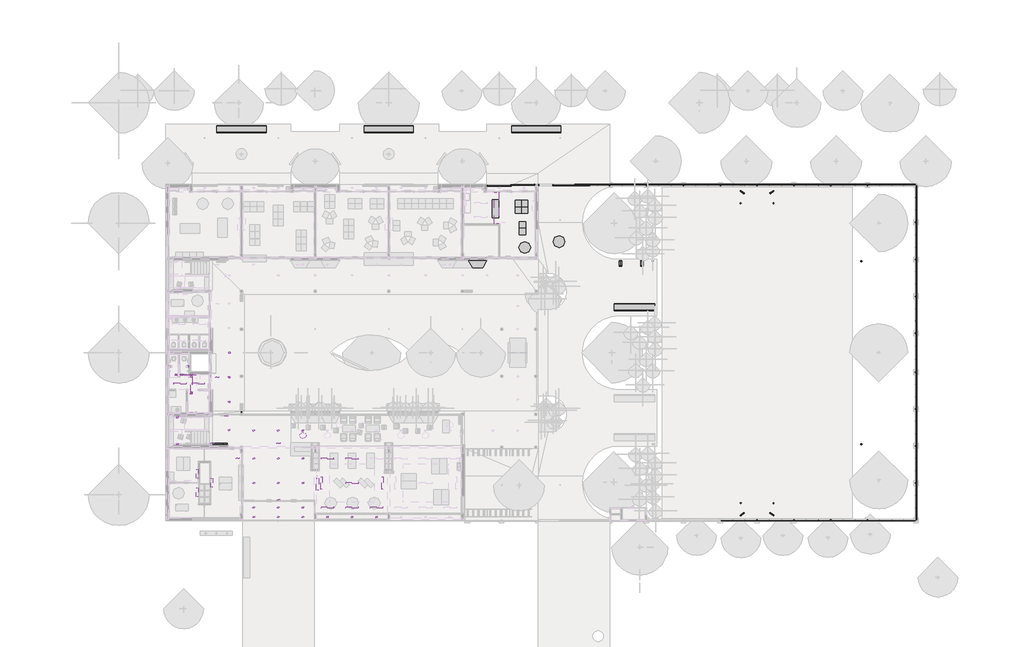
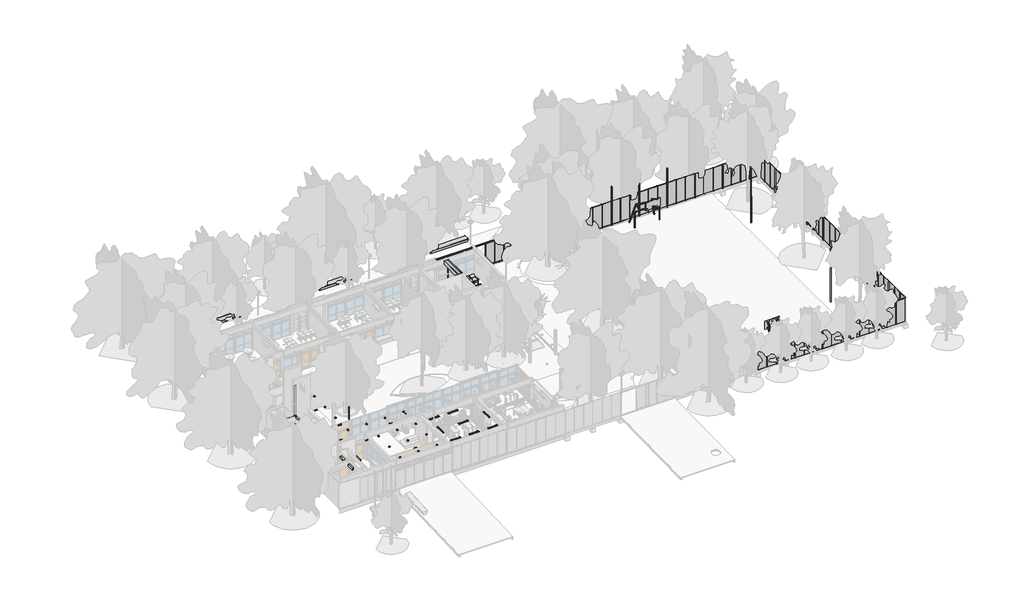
# One storey, part 19 of 22: 45 light fixtures, 38 furniture elements, 11 pipe segments, 9 proxies, 6 pipe fittings.
"""IFC4 building model written with IfcOpenShell, lengths in millimetres."""

from ifc_helpers import new_model, si_unit, point, frame, frame_2d, origin, origin_with_axes, place, context, project, spatial, circle_curve, trimmed, segment, composite_curve, outline, extrude, transform, mapped, element, save
from components import electrical_equipment_c3a30a10, aa_unidad_interior_12_18_24_v2_12000btu_578df6c9, aa_unidad_interior_12_18_24_v2_24000btu_6bd6a99b, pcb1_35x80x15_517f87f7, tpb1_100x80x15_b3fe0ed7, furniture_fd72af2a, furniture_e56d43f1, furniture_4cc7b299, furniture_a39bbeee, furniture_a6d4d556, furniture_abbcea69, furniture_638756c5, furniture_b6be04e7, furniture_4eb7cf04, furniture_6ba65ce6, furniture_6cb22b23, furniture_e62c53e2, furniture_aa3b6743, furniture_18cd3a3b, furniture_74885e08, furniture_0fe16592, furniture_af94d752, furniture_9b45714c, furniture_685e10fb, furniture_f63c7d66, furniture_c8fff0bf, furniture_de40e68f, furniture_26281bd8, furniture_f331ff0f, furniture_52e7fafc, furniture_2_16_mesa_redonda_2_16_mesa_redonda_79845c6b, l150_l150_8baf4198, l151_l151_e0f7dd01, l205_v1_l205_v1_696a9d75, l207_l207_1a914073, l207_l207_df287294, l207_muro_l207_muro_697710b7, l207_muro_l207_muro_8cf962c2, l251_l251_78c3c87a, l508_muro_l508_muro_c32f3ad5, l508_muro_l508_muro_abd03695, m_codo_pvc_serie_40_37877417

model = new_model("IFC4")

# Units and contexts
model_context = context("Model", 3, world=origin())
ifc_project = project(units=[si_unit("LENGTHUNIT", "METRE", prefix="MILLI")], contexts=[model_context])

# Site, building, storey
site = spatial("IfcSite", under=ifc_project)
building = spatial("IfcBuilding", under=site)
storey = spatial("IfcBuildingStorey", under=building, Name="PLanta baja", Elevation=0.0)

# Proxies
placement = place(None, origin())
electrical_equipment_shape = electrical_equipment_c3a30a10(model_context)
element("IfcBuildingElementProxy", 1, Name="Extractor Decor : Extractor Decor", ObjectType="Extractor Decor : Extractor Decor", at=placement, inside=storey, context=model_context, shape_type="MappedRepresentation", body=[
    mapped(electrical_equipment_shape, transform((5501.4228884, 12162.7304035, 2600.0), x_axis=(1.0, 0.0, 0.0), y_axis=(0.0, -1.0, 0.0), z_axis=(0.0, 0.0, -1.0))),
])
element("IfcBuildingElementProxy", 2, Name="Extractor Decor : Extractor Decor", ObjectType="Extractor Decor : Extractor Decor", at=placement, inside=storey, context=model_context, shape_type="MappedRepresentation", body=[
    mapped(electrical_equipment_shape, transform((4096.4228884, 13908.2725089, 2600.0), x_axis=(1.0, 0.0, 0.0), y_axis=(0.0, -1.0, 0.0), z_axis=(0.0, 0.0, -1.0))),
])
element("IfcBuildingElementProxy", 3, Name="Extractor Decor : Extractor Decor", ObjectType="Extractor Decor : Extractor Decor", at=placement, inside=storey, context=model_context, shape_type="MappedRepresentation", body=[
    mapped(electrical_equipment_shape, transform((4596.4228884, 13900.7725089, 2600.0), x_axis=(1.0, 0.0, 0.0), y_axis=(0.0, -1.0, 0.0), z_axis=(0.0, 0.0, -1.0))),
])
aa_unidad_interior_12_18_24_v2_12000btu_shape = aa_unidad_interior_12_18_24_v2_12000btu_578df6c9(model_context)
element("IfcBuildingElementProxy", 4, Name="AA Unidad interior 12-18-24 V2 : 12000BTU", ObjectType="AA Unidad interior 12-18-24 V2 : 12000BTU", at=placement, inside=storey, context=model_context, shape_type="MappedRepresentation", body=[
    mapped(aa_unidad_interior_12_18_24_v2_12000btu_shape, transform((6163.7173693, 4638.9804035, 2800.0), x_axis=(0.0, -1.0, 0.0), y_axis=(0.0, 0.0, 1.0), z_axis=(-1.0, 0.0, 0.0))),
])
element("IfcBuildingElementProxy", 5, Name="AA Unidad interior 12-18-24 V2 : 12000BTU", ObjectType="AA Unidad interior 12-18-24 V2 : 12000BTU", at=placement, inside=storey, context=model_context, shape_type="MappedRepresentation", body=[
    mapped(aa_unidad_interior_12_18_24_v2_12000btu_shape, transform((6163.7173693, 2901.4804035, 2800.0), x_axis=(0.0, -1.0, 0.0), y_axis=(0.0, 0.0, 1.0), z_axis=(-1.0, 0.0, 0.0))),
])
element("IfcBuildingElementProxy", 6, Name="AA Unidad interior 12-18-24 V2 : 12000BTU", ObjectType="AA Unidad interior 12-18-24 V2 : 12000BTU", at=placement, inside=storey, context=model_context, shape_type="MappedRepresentation", body=[
    mapped(aa_unidad_interior_12_18_24_v2_12000btu_shape, transform((7313.7173693, 3770.2304035, 2800.0), x_axis=(0.0, 1.0, 0.0), y_axis=(0.0, 0.0, 1.0), z_axis=(1.0, 0.0, 0.0))),
])
aa_unidad_interior_12_18_24_v2_24000btu_shape = aa_unidad_interior_12_18_24_v2_24000btu_6bd6a99b(model_context)
element("IfcBuildingElementProxy", 7, Name="AA Unidad interior 12-18-24 V2 : 24000BTU", ObjectType="AA Unidad interior 12-18-24 V2 : 24000BTU", at=placement, inside=storey, context=model_context, shape_type="MappedRepresentation", body=[
    mapped(aa_unidad_interior_12_18_24_v2_24000btu_shape, transform((17188.7173694, 3648.5637368, 2790.2432716), x_axis=(0.0, 1.0, 0.0), y_axis=(0.0, 0.0, 1.0), z_axis=(1.0, 0.0, 0.0))),
])
pcb1_35x80x15_shape = pcb1_35x80x15_517f87f7(model_context)
element("IfcBuildingElementProxy", 8, Name="TABLERO ELECTRICO DE SUPERFICIE : PCB1 35x80x15", ObjectType="TABLERO ELECTRICO DE SUPERFICIE : PCB1 35x80x15", at=placement, inside=storey, context=model_context, shape_type="MappedRepresentation", body=[
    mapped(pcb1_35x80x15_shape, transform((8677.7173694, 7330.2304035, 1800.0), x_axis=(-1.0, 0.0, 0.0), y_axis=(0.0, 0.0, 1.0), z_axis=(0.0, 1.0, 0.0))),
])
tpb1_100x80x15_shape = tpb1_100x80x15_b3fe0ed7(model_context)
element("IfcBuildingElementProxy", 9, Name="TABLERO ELECTRICO DE SUPERFICIE : TPB1 100x80x15", ObjectType="TABLERO ELECTRICO DE SUPERFICIE : TPB1 100x80x15", at=placement, inside=storey, context=model_context, shape_type="MappedRepresentation", body=[
    mapped(tpb1_100x80x15_shape, transform((8002.7173694, 7330.2304035, 1800.0), x_axis=(-1.0, 0.0, 0.0), y_axis=(0.0, 0.0, 1.0), z_axis=(0.0, 1.0, 0.0))),
])

# Furniture
furniture_shape = furniture_fd72af2a(model_context)
element("IfcFurniture", 10, ObjectType="H101 ARCO Y TABLERO : H101 ARCO Y TABLERO", at=placement, inside=storey, context=model_context, shape_type="MappedRepresentation", body=[
    mapped(furniture_shape, transform((58488.7173693, 29973.3757217, 0.0), x_axis=(1.0, 0.0, 0.0), y_axis=(0.0, 1.0, 0.0), z_axis=(0.0, 0.0, 1.0))),
])
element("IfcFurniture", 11, ObjectType="H101 ARCO Y TABLERO : H101 ARCO Y TABLERO", at=placement, inside=storey, context=model_context, shape_type="MappedRepresentation", body=[
    mapped(furniture_shape, transform((58488.7173693, 1881.5821974, -50.0), x_axis=(-1.0, 0.0, 0.0), y_axis=(0.0, -1.0, 0.0), z_axis=(0.0, 0.0, 1.0))),
])
furniture_2_shape = furniture_e56d43f1(model_context)
element("IfcFurniture", 12, ObjectType="2.5 Mesa cuadrada 60x60 : 2.5 Mesa cuadrada 60x60", at=placement, inside=storey, context=model_context, shape_type="MappedRepresentation", body=[
    mapped(furniture_2_shape, transform((36728.7173694, 29949.199841, 0.0), x_axis=(1.0, 0.0, 0.0), y_axis=(0.0, 1.0, 0.0), z_axis=(0.0, 0.0, 1.0))),
])
element("IfcFurniture", 13, ObjectType="2.5 Mesa cuadrada 60x60 : 2.5 Mesa cuadrada 60x60", at=placement, inside=storey, context=model_context, shape_type="MappedRepresentation", body=[
    mapped(furniture_2_shape, transform((36128.7173455, 29949.199841, 0.0), x_axis=(1.0, 0.0, 0.0), y_axis=(0.0, 1.0, 0.0), z_axis=(0.0, 0.0, 1.0))),
])
element("IfcFurniture", 14, ObjectType="2.5 Mesa cuadrada 60x60 : 2.5 Mesa cuadrada 60x60", at=placement, inside=storey, context=model_context, shape_type="MappedRepresentation", body=[
    mapped(furniture_2_shape, transform((36497.2889645, 27340.9251233, 0.0), x_axis=(0.0, -1.0, 0.0), y_axis=(1.0, 0.0, 0.0), z_axis=(0.0, 0.0, 1.0))),
])
element("IfcFurniture", 15, ObjectType="2.5 Mesa cuadrada 60x60 : 2.5 Mesa cuadrada 60x60", at=placement, inside=storey, context=model_context, shape_type="MappedRepresentation", body=[
    mapped(furniture_2_shape, transform((36497.2889645, 27940.9251472, 0.0), x_axis=(0.0, -1.0, 0.0), y_axis=(1.0, 0.0, 0.0), z_axis=(0.0, 0.0, 1.0))),
])
element("IfcFurniture", 16, ObjectType="2.5 Mesa cuadrada 60x60 : 2.5 Mesa cuadrada 60x60", at=placement, inside=storey, context=model_context, shape_type="MappedRepresentation", body=[
    mapped(furniture_2_shape, transform((36728.7173694, 29349.1998171, 0.0), x_axis=(1.0, 0.0, 0.0), y_axis=(0.0, 1.0, 0.0), z_axis=(0.0, 0.0, 1.0))),
])
element("IfcFurniture", 17, ObjectType="2.5 Mesa cuadrada 60x60 : 2.5 Mesa cuadrada 60x60", at=placement, inside=storey, context=model_context, shape_type="MappedRepresentation", body=[
    mapped(furniture_2_shape, transform((36128.7173455, 29349.1998171, 0.0), x_axis=(1.0, 0.0, 0.0), y_axis=(0.0, 1.0, 0.0), z_axis=(0.0, 0.0, 1.0))),
])
furniture_3_shape = furniture_4cc7b299(model_context)
element("IfcFurniture", 18, ObjectType="H104 Reja 4 módulos : H104 Reja 4 módulos 450x310", at=placement, inside=storey, context=model_context, shape_type="MappedRepresentation", body=[
    mapped(furniture_3_shape, transform((71044.0170429, 810.2304035, -50.0), x_axis=(1.0, 0.0, 0.0), y_axis=(0.0, 1.0, 0.0), z_axis=(0.0, 0.0, 1.0))),
])
furniture_4_shape = furniture_a39bbeee(model_context)
element("IfcFurniture", 19, ObjectType="H104 Reja 4 módulos : H104 Reja 4 módulos 450x310", at=placement, inside=storey, context=model_context, shape_type="MappedRepresentation", body=[
    mapped(furniture_4_shape, transform((71044.0170429, 31137.8764884, -50.0), x_axis=(1.0, 0.0, 0.0), y_axis=(0.0, 1.0, 0.0), z_axis=(0.0, 0.0, 1.0))),
])
furniture_5_shape = furniture_a6d4d556(model_context)
element("IfcFurniture", 20, ObjectType="H103 Reja 3 módulos : H103.2 Reja 3 módulos 366x315", at=placement, inside=storey, context=model_context, shape_type="MappedRepresentation", body=[
    mapped(furniture_5_shape, transform((72838.7173693, 16393.530077, -50.0), x_axis=(0.0, 1.0, 0.0), y_axis=(-1.0, 0.0, 0.0), z_axis=(0.0, 0.0, 1.0))),
])
furniture_6_shape = furniture_abbcea69(model_context)
element("IfcFurniture", 21, ObjectType="P04 Mostrador cantina : P04 Mostrador cantina", at=placement, inside=storey, context=model_context, shape_type="MappedRepresentation", body=[
    mapped(furniture_6_shape, transform((33688.7173693, 30175.530077, 900.0), x_axis=(0.0, 1.0, 0.0), y_axis=(-1.0, 0.0, 0.0), z_axis=(0.0, 0.0, 1.0))),
])
furniture_7_shape = furniture_638756c5(model_context)
element("IfcFurniture", 22, ObjectType="Banco de hormigón : Banco de hormigón 4.6m", at=placement, inside=storey, context=model_context, shape_type="MappedRepresentation", body=[
    mapped(furniture_7_shape, transform((37749.0170429, 37244.2072726, -50.0), x_axis=(1.0, 0.0, 0.0), y_axis=(0.0, 1.0, 0.0), z_axis=(0.0, 0.0, 1.0))),
])
element("IfcFurniture", 23, ObjectType="Banco de hormigón : Banco de hormigón 4.6m", at=placement, inside=storey, context=model_context, shape_type="MappedRepresentation", body=[
    mapped(furniture_7_shape, transform((23949.0170429, 37244.2072726, -50.0), x_axis=(1.0, 0.0, 0.0), y_axis=(0.0, 1.0, 0.0), z_axis=(0.0, 0.0, 1.0))),
])
element("IfcFurniture", 24, ObjectType="Banco de hormigón : Banco de hormigón 4.6m", at=placement, inside=storey, context=model_context, shape_type="MappedRepresentation", body=[
    mapped(furniture_7_shape, transform((10149.0170429, 37244.2072726, -50.0), x_axis=(1.0, 0.0, 0.0), y_axis=(0.0, 1.0, 0.0), z_axis=(0.0, 0.0, 1.0))),
])
furniture_8_shape = furniture_b6be04e7(model_context)
element("IfcFurniture", 25, ObjectType="C06 Asiento Trapecio : C06 Asiento Trapecio 180x40", at=placement, inside=storey, context=model_context, shape_type="MappedRepresentation", body=[
    mapped(furniture_8_shape, transform((32288.7173693, 24609.5116208, 0.0), x_axis=(1.0, 0.0, 0.0), y_axis=(0.0, 1.0, 0.0), z_axis=(0.0, 0.0, 1.0))),
])
furniture_9_shape = furniture_4eb7cf04(model_context)
element("IfcFurniture", 26, ObjectType="Cenefa cortina de enrollar : Cenefa cortina de enrollar", at=placement, inside=storey, context=model_context, shape_type="MappedRepresentation", body=[
    mapped(furniture_9_shape, transform((34127.4673693, 28040.2304035, 3100.0), x_axis=(-1.0, 0.0, 0.0), y_axis=(0.0, 1.0, 0.0), z_axis=(0.0, 0.0, -1.0))),
])
furniture_10_shape = furniture_6ba65ce6(model_context)
element("IfcFurniture", 27, ObjectType="Cortina de enrollar : Cortina de enrollar", at=placement, inside=storey, context=model_context, shape_type="MappedRepresentation", body=[
    mapped(furniture_10_shape, transform((33736.2173693, 29460.530077, -20.0), x_axis=(0.0, 1.0, 0.0), y_axis=(-1.0, 0.0, 0.0), z_axis=(0.0, 0.0, 1.0))),
])
furniture_11_shape = furniture_6cb22b23(model_context)
element("IfcFurniture", 28, ObjectType="Columnas : Columnas", at=placement, inside=storey, context=model_context, shape_type="MappedRepresentation", body=[
    mapped(furniture_11_shape, transform((48672.5170429, 24828.9908949, -50.0), x_axis=(1.0, 0.0, 0.0), y_axis=(0.0, 1.0, 0.0), z_axis=(0.0, 0.0, 1.0))),
])
element("IfcFurniture", 29, ObjectType="Columnas : Columnas", at=placement, inside=storey, context=model_context, shape_type="MappedRepresentation", body=[
    mapped(furniture_11_shape, transform((68312.5159459, 7119.1159969, 0.0), x_axis=(-1.0, 0.0, 0.0), y_axis=(0.0, -1.0, 0.0), z_axis=(0.0, 0.0, 1.0))),
])
furniture_12_shape = furniture_e62c53e2(model_context)
element("IfcFurniture", 30, ObjectType="Columnas : Columnas", at=placement, inside=storey, context=model_context, shape_type="MappedRepresentation", body=[
    mapped(furniture_12_shape, transform((68312.5159459, 24828.9908949, 0.0), x_axis=(-1.0, 0.0, 0.0), y_axis=(0.0, -1.0, 0.0), z_axis=(0.0, 0.0, 1.0))),
])
furniture_13_shape = furniture_aa3b6743(model_context)
element("IfcFurniture", 31, ObjectType="Bebedero : Bebedero", at=placement, inside=storey, context=model_context, shape_type="MappedRepresentation", body=[
    mapped(furniture_13_shape, transform((45693.7173693, 24288.924845, -50.0), x_axis=(1.0, 0.0, 0.0), y_axis=(0.0, 1.0, 0.0), z_axis=(0.0, 0.0, 1.0))),
])
element("IfcFurniture", 32, ObjectType="Bebedero : Bebedero", at=placement, inside=storey, context=model_context, shape_type="MappedRepresentation", body=[
    mapped(furniture_13_shape, transform((47713.7173693, 24288.924845, -50.0), x_axis=(1.0, 0.0, 0.0), y_axis=(0.0, 1.0, 0.0), z_axis=(0.0, 0.0, 1.0))),
])
furniture_14_shape = furniture_18cd3a3b(model_context)
element("IfcFurniture", 33, ObjectType="Banco de hormigón : Banco de hormigón 3.8m", at=placement, inside=storey, context=model_context, shape_type="MappedRepresentation", body=[
    mapped(furniture_14_shape, transform((46965.3596252, 20570.2304035, -50.0), x_axis=(1.0, 0.0, 0.0), y_axis=(0.0, 1.0, 0.0), z_axis=(0.0, 0.0, 1.0))),
])
furniture_15_shape = furniture_74885e08(model_context)
element("IfcFurniture", 34, ObjectType="H105 Reja 6 módulos : H105.1 Reja 6 módulos 690x310", at=placement, inside=storey, context=model_context, shape_type="MappedRepresentation", body=[
    mapped(furniture_15_shape, transform((72838.7173693, 9497.5300771, -50.0), x_axis=(0.0, 1.0, 0.0), y_axis=(-1.0, 0.0, 0.0), z_axis=(0.0, 0.0, 1.0))),
])
furniture_16_shape = furniture_0fe16592(model_context)
element("IfcFurniture", 35, ObjectType="H105 Reja 6 módulos : H105.1 Reja 6 módulos 690x310", at=placement, inside=storey, context=model_context, shape_type="MappedRepresentation", body=[
    mapped(furniture_16_shape, transform((72838.7173693, 22442.9307299, -50.0), x_axis=(0.0, -1.0, 0.0), y_axis=(1.0, 0.0, 0.0), z_axis=(0.0, 0.0, 1.0))),
])
furniture_17_shape = furniture_af94d752(model_context)
element("IfcFurniture", 36, ObjectType="H105 Reja 6 módulos : H105.2 Reja 6 módulos 690x315 CANCHA", at=placement, inside=storey, context=model_context, shape_type="MappedRepresentation", body=[
    mapped(furniture_17_shape, transform((57294.0170429, 810.2304035, -50.0), x_axis=(1.0, 0.0, 0.0), y_axis=(0.0, 1.0, 0.0), z_axis=(0.0, 0.0, 1.0))),
])
furniture_18_shape = furniture_9b45714c(model_context)
element("IfcFurniture", 37, ObjectType="H105 Reja 6 módulos : H105.2 Reja 6 módulos 690x315 CANCHA", at=placement, inside=storey, context=model_context, shape_type="MappedRepresentation", body=[
    mapped(furniture_18_shape, transform((64194.0170429, 810.2304035, -50.0), x_axis=(1.0, 0.0, 0.0), y_axis=(0.0, 1.0, 0.0), z_axis=(0.0, 0.0, 1.0))),
])
element("IfcFurniture", 38, ObjectType="H105 Reja 6 módulos : H105.2 Reja 6 módulos 690x315 CANCHA", at=placement, inside=storey, context=model_context, shape_type="MappedRepresentation", body=[
    mapped(furniture_18_shape, transform((52783.4176958, 31137.8764884, -50.0), x_axis=(-1.0, 0.0, 0.0), y_axis=(0.0, -1.0, 0.0), z_axis=(0.0, 0.0, 1.0))),
])
furniture_19_shape = furniture_685e10fb(model_context)
element("IfcFurniture", 39, ObjectType="H105 Reja 6 módulos : H105.2 Reja 6 módulos 690x315 CANCHA", at=placement, inside=storey, context=model_context, shape_type="MappedRepresentation", body=[
    mapped(furniture_19_shape, transform((57294.0170429, 31137.8764884, -50.0), x_axis=(1.0, 0.0, 0.0), y_axis=(0.0, 1.0, 0.0), z_axis=(0.0, 0.0, 1.0))),
])
furniture_20_shape = furniture_f63c7d66(model_context)
element("IfcFurniture", 40, ObjectType="H105 Reja 6 módulos : H105.1 Reja 6 módulos 690x310", at=placement, inside=storey, context=model_context, shape_type="MappedRepresentation", body=[
    mapped(furniture_20_shape, transform((64194.0170429, 31137.8764884, -50.0), x_axis=(1.0, 0.0, 0.0), y_axis=(0.0, 1.0, 0.0), z_axis=(0.0, 0.0, 1.0))),
])
furniture_21_shape = furniture_c8fff0bf(model_context)
element("IfcFurniture", 41, ObjectType="H103 Reja 3 módulos : H103.1 Reja 3 módulos 345x315", at=placement, inside=storey, context=model_context, shape_type="MappedRepresentation", body=[
    mapped(furniture_21_shape, transform((45883.4176958, 31137.8764884, -50.0), x_axis=(-1.0, 0.0, 0.0), y_axis=(0.0, -1.0, 0.0), z_axis=(0.0, 0.0, 1.0))),
])
furniture_22_shape = furniture_de40e68f(model_context)
element("IfcFurniture", 42, ObjectType="H105 Reja 6 módulos : H105.3 Reja 6 módulos 697x315", at=placement, inside=storey, context=model_context, shape_type="MappedRepresentation", body=[
    mapped(furniture_22_shape, transform((72838.7173693, 2548.8634104, -50.0), x_axis=(0.0, 1.0, 0.0), y_axis=(-1.0, 0.0, 0.0), z_axis=(0.0, 0.0, 1.0))),
])
furniture_23_shape = furniture_26281bd8(model_context)
element("IfcFurniture", 43, ObjectType="H105 Reja 6 módulos : H105.3 Reja 6 módulos 697x315", at=placement, inside=storey, context=model_context, shape_type="MappedRepresentation", body=[
    mapped(furniture_23_shape, transform((72838.7173693, 29399.2434815, -50.0), x_axis=(0.0, -1.0, 0.0), y_axis=(1.0, 0.0, 0.0), z_axis=(0.0, 0.0, 1.0))),
])
furniture_24_shape = furniture_f331ff0f(model_context)
element("IfcFurniture", 44, ObjectType="H102 Portón corredizo vehicular : H102 Portón corredizo vehicular", at=placement, inside=storey, context=model_context, shape_type="MappedRepresentation", body=[
    mapped(furniture_24_shape, transform((41343.7173693, 31617.8764884, 0.0), x_axis=(1.0, 0.0, 0.0), y_axis=(0.0, 1.0, 0.0), z_axis=(0.0, 0.0, 1.0))),
])
furniture_25_shape = furniture_52e7fafc(model_context)
element("IfcFurniture", 45, ObjectType="H12 Protección 4 módulos Corredizo 2 hojas : H12 Protección 4 módulos 2 hojas corredizas 450x310", at=placement, inside=storey, context=model_context, shape_type="MappedRepresentation", body=[
    mapped(furniture_25_shape, transform((35438.7173693, 31660.2304035, -50.0), x_axis=(1.0, 0.0, 0.0), y_axis=(0.0, 1.0, 0.0), z_axis=(0.0, 0.0, 1.0))),
])
furniture_2_16_mesa_redonda_2_16_mesa_redonda_shape = furniture_2_16_mesa_redonda_2_16_mesa_redonda_79845c6b(model_context)
element("IfcFurniture", 46, ObjectType="2.16 Mesa redonda : 2.16 Mesa redonda", at=placement, inside=storey, context=model_context, shape_type="MappedRepresentation", body=[
    mapped(furniture_2_16_mesa_redonda_2_16_mesa_redonda_shape, transform((39940.165201, 26375.3422951, 0.0), x_axis=(0.7071067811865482, -0.7071067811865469, 0.0), y_axis=(0.7071067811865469, 0.7071067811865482, 0.0), z_axis=(0.0, 0.0, 1.0))),
])
element("IfcFurniture", 47, ObjectType="2.16 Mesa redonda : 2.16 Mesa redonda", at=placement, inside=storey, context=model_context, shape_type="MappedRepresentation", body=[
    mapped(furniture_2_16_mesa_redonda_2_16_mesa_redonda_shape, transform((36728.7173694, 25835.9933387, 0.0), x_axis=(1.0, 0.0, 0.0), y_axis=(0.0, 1.0, 0.0), z_axis=(0.0, 0.0, 1.0))),
])

# Light fixtures
l150_l150_shape = l150_l150_8baf4198(model_context)
element("IfcLightFixture", 48, ObjectType="L150 : L150", at=placement, inside=storey, context=model_context, shape_type="MappedRepresentation", body=[
    mapped(l150_l150_shape, transform((13638.7173694, 2192.2304035, 3100.0), x_axis=(1.0, 0.0, 0.0), y_axis=(0.0, -1.0, 0.0), z_axis=(0.0, 0.0, -1.0))),
])
element("IfcLightFixture", 49, ObjectType="L150 : L150", at=placement, inside=storey, context=model_context, shape_type="MappedRepresentation", body=[
    mapped(l150_l150_shape, transform((8788.7173693, 10050.2304035, 3100.0), x_axis=(1.0, 0.0, 0.0), y_axis=(0.0, -1.0, 0.0), z_axis=(0.0, 0.0, -1.0))),
])
l151_l151_shape = l151_l151_e0f7dd01(model_context)
element("IfcLightFixture", 50, ObjectType="L151 : L151", at=placement, inside=storey, context=model_context, shape_type="MappedRepresentation", body=[
    mapped(l151_l151_shape, transform((7461.2173694, 7487.7304035, 3100.0), x_axis=(0.0, -1.0, 0.0), y_axis=(-1.0, 0.0, 0.0), z_axis=(0.0, 0.0, -1.0))),
])
element("IfcLightFixture", 51, ObjectType="L151 : L151", at=placement, inside=storey, context=model_context, shape_type="MappedRepresentation", body=[
    mapped(l151_l151_shape, transform((13651.2173694, 7487.7304035, 3100.0), x_axis=(0.0, -1.0, 0.0), y_axis=(-1.0, 0.0, 0.0), z_axis=(0.0, 0.0, -1.0))),
])
element("IfcLightFixture", 52, ObjectType="L151 : L151", at=placement, inside=storey, context=model_context, shape_type="MappedRepresentation", body=[
    mapped(l151_l151_shape, transform((9839.3519916, 6068.5637368, 3100.0), x_axis=(0.0, -1.0, 0.0), y_axis=(-1.0, 0.0, 0.0), z_axis=(0.0, 0.0, -1.0))),
])
element("IfcLightFixture", 53, ObjectType="L151 : L151", at=placement, inside=storey, context=model_context, shape_type="MappedRepresentation", body=[
    mapped(l151_l151_shape, transform((5828.4489127, 13885.2304035, 2600.0), x_axis=(0.0, -1.0, 0.0), y_axis=(-1.0, 0.0, 0.0), z_axis=(0.0, 0.0, -1.0))),
])
element("IfcLightFixture", 54, ObjectType="L151 : L151", at=placement, inside=storey, context=model_context, shape_type="MappedRepresentation", body=[
    mapped(l151_l151_shape, transform((7913.7173694, 13670.2304035, 3100.0), x_axis=(0.0, -1.0, 0.0), y_axis=(-1.0, 0.0, 0.0), z_axis=(0.0, 0.0, -1.0))),
])
l205_v1_l205_v1_shape = l205_v1_l205_v1_696a9d75(model_context)
element("IfcLightFixture", 55, ObjectType="L205 v1 : L205 v1", at=placement, inside=storey, context=model_context, shape_type="MappedRepresentation", body=[
    mapped(l205_v1_l205_v1_shape, transform((15938.7173693, 8220.2304035, 0.0), x_axis=(1.0, 0.0, 0.0), y_axis=(0.0, 1.0, 0.0), z_axis=(0.0, 0.0, 1.0))),
])
l207_l207_shape = l207_l207_1a914073(model_context)
element("IfcLightFixture", 56, ObjectType="L207 : L207", at=placement, inside=storey, context=model_context, shape_type="MappedRepresentation", body=[
    mapped(l207_l207_shape, transform((9038.7173693, 8720.2304035, 100.0), x_axis=(1.0, 0.0, 0.0), y_axis=(0.0, 1.0, 0.0), z_axis=(0.0, 0.0, 1.0))),
])
element("IfcLightFixture", 57, ObjectType="L207 : L207", at=placement, inside=storey, context=model_context, shape_type="MappedRepresentation", body=[
    mapped(l207_l207_shape, transform((9038.7173693, 11370.2304035, 100.0), x_axis=(1.0, 0.0, 0.0), y_axis=(0.0, 1.0, 0.0), z_axis=(0.0, 0.0, 1.0))),
])
element("IfcLightFixture", 58, ObjectType="L207 : L207", at=placement, inside=storey, context=model_context, shape_type="MappedRepresentation", body=[
    mapped(l207_l207_shape, transform((9038.7173693, 13670.2304035, 100.0), x_axis=(1.0, 0.0, 0.0), y_axis=(0.0, 1.0, 0.0), z_axis=(0.0, 0.0, 1.0))),
])
element("IfcLightFixture", 59, ObjectType="L207 : L207", at=placement, inside=storey, context=model_context, shape_type="MappedRepresentation", body=[
    mapped(l207_l207_shape, transform((9038.7173693, 15970.2304035, 99.3235255), x_axis=(0.9999579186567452, 0.0, -0.00917392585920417), y_axis=(0.0, 1.0, 0.0), z_axis=(0.00917392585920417, 0.0, 0.9999579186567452))),
])
l207_l207_2_shape = l207_l207_df287294(model_context)
element("IfcLightFixture", 60, ObjectType="L207 : L207", at=placement, inside=storey, context=model_context, shape_type="MappedRepresentation", body=[
    mapped(l207_l207_2_shape, transform((15938.7173693, 8670.2304035, 100.0), x_axis=(1.0, 0.0, 0.0), y_axis=(0.0, 1.0, 0.0), z_axis=(0.0, 0.0, 1.0))),
])
element("IfcLightFixture", 61, ObjectType="L207 : L207", at=placement, inside=storey, context=model_context, shape_type="MappedRepresentation", body=[
    mapped(l207_l207_2_shape, transform((13638.7173693, 8670.2304035, 100.0), x_axis=(1.0, 0.0, 0.0), y_axis=(0.0, 1.0, 0.0), z_axis=(0.0, 0.0, 1.0))),
])
element("IfcLightFixture", 62, ObjectType="L207 : L207", at=placement, inside=storey, context=model_context, shape_type="MappedRepresentation", body=[
    mapped(l207_l207_2_shape, transform((11338.7173693, 8670.2304035, 100.0), x_axis=(1.0, 0.0, 0.0), y_axis=(0.0, 1.0, 0.0), z_axis=(0.0, 0.0, 1.0))),
])
element("IfcLightFixture", 63, ObjectType="L207 : L207", at=placement, inside=storey, context=model_context, shape_type="MappedRepresentation", body=[
    mapped(l207_l207_2_shape, transform((15938.7173693, 1468.5637368, 100.0), x_axis=(1.0, 0.0, 0.0), y_axis=(0.0, 1.0, 0.0), z_axis=(0.0, 0.0, 1.0))),
])
element("IfcLightFixture", 64, ObjectType="L207 : L207", at=placement, inside=storey, context=model_context, shape_type="MappedRepresentation", body=[
    mapped(l207_l207_2_shape, transform((13638.7173693, 1468.5637368, 100.0), x_axis=(1.0, 0.0, 0.0), y_axis=(0.0, 1.0, 0.0), z_axis=(0.0, 0.0, 1.0))),
])
element("IfcLightFixture", 65, ObjectType="L207 : L207", at=placement, inside=storey, context=model_context, shape_type="MappedRepresentation", body=[
    mapped(l207_l207_2_shape, transform((11338.7173693, 1468.5637368, 100.0), x_axis=(1.0, 0.0, 0.0), y_axis=(0.0, 1.0, 0.0), z_axis=(0.0, 0.0, 1.0))),
])
element("IfcLightFixture", 66, ObjectType="L207 : L207", at=placement, inside=storey, context=model_context, shape_type="MappedRepresentation", body=[
    mapped(l207_l207_2_shape, transform((15938.7173693, 3768.5637368, 100.0), x_axis=(1.0, 0.0, 0.0), y_axis=(0.0, 1.0, 0.0), z_axis=(0.0, 0.0, 1.0))),
])
element("IfcLightFixture", 67, ObjectType="L207 : L207", at=placement, inside=storey, context=model_context, shape_type="MappedRepresentation", body=[
    mapped(l207_l207_2_shape, transform((13638.7173693, 3768.5637368, 100.0), x_axis=(1.0, 0.0, 0.0), y_axis=(0.0, 1.0, 0.0), z_axis=(0.0, 0.0, 1.0))),
])
element("IfcLightFixture", 68, ObjectType="L207 : L207", at=placement, inside=storey, context=model_context, shape_type="MappedRepresentation", body=[
    mapped(l207_l207_2_shape, transform((11338.7173693, 3768.5637368, 100.0), x_axis=(1.0, 0.0, 0.0), y_axis=(0.0, 1.0, 0.0), z_axis=(0.0, 0.0, 1.0))),
])
element("IfcLightFixture", 69, ObjectType="L207 : L207", at=placement, inside=storey, context=model_context, shape_type="MappedRepresentation", body=[
    mapped(l207_l207_2_shape, transform((15938.7173693, 6068.5637368, 100.0), x_axis=(1.0, 0.0, 0.0), y_axis=(0.0, 1.0, 0.0), z_axis=(0.0, 0.0, 1.0))),
])
element("IfcLightFixture", 70, ObjectType="L207 : L207", at=placement, inside=storey, context=model_context, shape_type="MappedRepresentation", body=[
    mapped(l207_l207_2_shape, transform((13638.7173693, 6068.5637368, 100.0), x_axis=(1.0, 0.0, 0.0), y_axis=(0.0, 1.0, 0.0), z_axis=(0.0, 0.0, 1.0))),
])
element("IfcLightFixture", 71, ObjectType="L207 : L207", at=placement, inside=storey, context=model_context, shape_type="MappedRepresentation", body=[
    mapped(l207_l207_2_shape, transform((11338.7173693, 6068.5637368, 100.0), x_axis=(1.0, 0.0, 0.0), y_axis=(0.0, 1.0, 0.0), z_axis=(0.0, 0.0, 1.0))),
])
element("IfcLightFixture", 72, ObjectType="L207 : L207", at=placement, inside=storey, context=model_context, shape_type="MappedRepresentation", body=[
    mapped(l207_l207_2_shape, transform((11338.7173693, 582.7304035, 100.0), x_axis=(1.0, 0.0, 0.0), y_axis=(0.0, 1.0, 0.0), z_axis=(0.0, 0.0, 1.0))),
])
element("IfcLightFixture", 73, ObjectType="L207 : L207", at=placement, inside=storey, context=model_context, shape_type="MappedRepresentation", body=[
    mapped(l207_l207_2_shape, transform((13627.9464991, 582.7304035, 100.0), x_axis=(1.0, 0.0, 0.0), y_axis=(0.0, 1.0, 0.0), z_axis=(0.0, 0.0, 1.0))),
])
element("IfcLightFixture", 74, ObjectType="L207 : L207", at=placement, inside=storey, context=model_context, shape_type="MappedRepresentation", body=[
    mapped(l207_l207_2_shape, transform((15927.9464991, 582.7304035, 100.0), x_axis=(1.0, 0.0, 0.0), y_axis=(0.0, 1.0, 0.0), z_axis=(0.0, 0.0, 1.0))),
])
element("IfcLightFixture", 75, ObjectType="L207 : L207", at=placement, inside=storey, context=model_context, shape_type="MappedRepresentation", body=[
    mapped(l207_l207_2_shape, transform((18238.7173694, 582.7304035, 100.0), x_axis=(1.0, 0.0, 0.0), y_axis=(0.0, 1.0, 0.0), z_axis=(0.0, 0.0, 1.0))),
])
element("IfcLightFixture", 76, ObjectType="L207 : L207", at=placement, inside=storey, context=model_context, shape_type="MappedRepresentation", body=[
    mapped(l207_l207_2_shape, transform((20538.7173694, 582.7304035, 100.0), x_axis=(1.0, 0.0, 0.0), y_axis=(0.0, 1.0, 0.0), z_axis=(0.0, 0.0, 1.0))),
])
element("IfcLightFixture", 77, ObjectType="L207 : L207", at=placement, inside=storey, context=model_context, shape_type="MappedRepresentation", body=[
    mapped(l207_l207_2_shape, transform((22838.7173694, 582.7304035, 100.0), x_axis=(1.0, 0.0, 0.0), y_axis=(0.0, 1.0, 0.0), z_axis=(0.0, 0.0, 1.0))),
])
l207_muro_l207_muro_shape = l207_muro_l207_muro_697710b7(model_context)
element("IfcLightFixture", 78, ObjectType="L207 Muro : L207 Muro", at=placement, inside=storey, context=model_context, shape_type="MappedRepresentation", body=[
    mapped(l207_muro_l207_muro_shape, transform((3243.7173694, 14833.9804035, 330.0), x_axis=(0.0, -1.0, 0.0), y_axis=(1.0, 0.0, 0.0), z_axis=(0.0, 0.0, 1.0))),
])
element("IfcLightFixture", 79, ObjectType="L207 Muro : L207 Muro", at=placement, inside=storey, context=model_context, shape_type="MappedRepresentation", body=[
    mapped(l207_muro_l207_muro_shape, transform((5376.7320753, 10175.2304035, 330.0), x_axis=(1.0, 0.0, 0.0), y_axis=(0.0, 1.0, 0.0), z_axis=(0.0, 0.0, 1.0))),
])
l207_muro_l207_muro_2_shape = l207_muro_l207_muro_8cf962c2(model_context)
element("IfcLightFixture", 80, ObjectType="L207 Muro : L207 Muro", at=placement, inside=storey, context=model_context, shape_type="MappedRepresentation", body=[
    mapped(l207_muro_l207_muro_2_shape, transform((5308.4489127, 14583.9804035, 330.0), x_axis=(0.0, 1.0, 0.0), y_axis=(-1.0, 0.0, 0.0), z_axis=(0.0, 0.0, 1.0))),
])
l251_l251_shape = l251_l251_78c3c87a(model_context)
element("IfcLightFixture", 81, ObjectType="L251 : L251", at=placement, inside=storey, context=model_context, shape_type="MappedRepresentation", body=[
    mapped(l251_l251_shape, transform((4447.4306995, 13095.2304035, 1200.0), x_axis=(1.0, 0.0, 0.0), y_axis=(0.0, 1.0, 0.0), z_axis=(0.0, 0.0, 1.0))),
])
element("IfcLightFixture", 82, ObjectType="L251 : L251", at=placement, inside=storey, context=model_context, shape_type="MappedRepresentation", body=[
    mapped(l251_l251_shape, transform((20540.2173693, 3768.5637368, 1710.0), x_axis=(1.0, 0.0, 0.0), y_axis=(0.0, 1.0, 0.0), z_axis=(0.0, 0.0, 1.0))),
])
element("IfcLightFixture", 83, ObjectType="L251 : L251", at=placement, inside=storey, context=model_context, shape_type="MappedRepresentation", body=[
    mapped(l251_l251_shape, transform((20540.2173693, 6068.5637368, 1710.0), x_axis=(1.0, 0.0, 0.0), y_axis=(0.0, 1.0, 0.0), z_axis=(0.0, 0.0, 1.0))),
])
element("IfcLightFixture", 84, ObjectType="L251 : L251", at=placement, inside=storey, context=model_context, shape_type="MappedRepresentation", body=[
    mapped(l251_l251_shape, transform((20540.2173693, 1468.5637368, 1710.0), x_axis=(1.0, 0.0, 0.0), y_axis=(0.0, 1.0, 0.0), z_axis=(0.0, 0.0, 1.0))),
])
element("IfcLightFixture", 85, ObjectType="L251 : L251", at=placement, inside=storey, context=model_context, shape_type="MappedRepresentation", body=[
    mapped(l251_l251_shape, transform((17682.7173693, 3768.5637368, 1710.0), x_axis=(0.0, 1.0, 0.0), y_axis=(-1.0, 0.0, 0.0), z_axis=(0.0, 0.0, 1.0))),
])
element("IfcLightFixture", 86, ObjectType="L251 : L251", at=placement, inside=storey, context=model_context, shape_type="MappedRepresentation", body=[
    mapped(l251_l251_shape, transform((18240.2173693, 6068.5637368, 1710.0), x_axis=(1.0, 0.0, 0.0), y_axis=(0.0, 1.0, 0.0), z_axis=(0.0, 0.0, 1.0))),
])
element("IfcLightFixture", 87, ObjectType="L251 : L251", at=placement, inside=storey, context=model_context, shape_type="MappedRepresentation", body=[
    mapped(l251_l251_shape, transform((18240.2173693, 1468.5637368, 1710.0), x_axis=(1.0, 0.0, 0.0), y_axis=(0.0, 1.0, 0.0), z_axis=(0.0, 0.0, 1.0))),
])
element("IfcLightFixture", 88, ObjectType="L251 : L251", at=placement, inside=storey, context=model_context, shape_type="MappedRepresentation", body=[
    mapped(l251_l251_shape, transform((23397.7173693, 3768.5637368, 1710.0), x_axis=(0.0, 1.0, 0.0), y_axis=(-1.0, 0.0, 0.0), z_axis=(0.0, 0.0, 1.0))),
])
element("IfcLightFixture", 89, ObjectType="L251 : L251", at=placement, inside=storey, context=model_context, shape_type="MappedRepresentation", body=[
    mapped(l251_l251_shape, transform((22840.2173693, 1468.5637368, 1710.0), x_axis=(1.0, 0.0, 0.0), y_axis=(0.0, 1.0, 0.0), z_axis=(0.0, 0.0, 1.0))),
])
element("IfcLightFixture", 90, ObjectType="L251 : L251", at=placement, inside=storey, context=model_context, shape_type="MappedRepresentation", body=[
    mapped(l251_l251_shape, transform((6154.9305728, 13095.2304035, 1200.0), x_axis=(1.0, 0.0, 0.0), y_axis=(0.0, 1.0, 0.0), z_axis=(0.0, 0.0, 1.0))),
])
l508_muro_l508_muro_shape = l508_muro_l508_muro_c32f3ad5(model_context)
element("IfcLightFixture", 91, ObjectType="L508 Muro : L508 Muro", at=placement, inside=storey, context=model_context, shape_type="MappedRepresentation", body=[
    mapped(l508_muro_l508_muro_shape, transform((4063.7173693, 7167.7304035, -520.0), x_axis=(1.0, 0.0, 0.0), y_axis=(0.0, 1.0, 0.0), z_axis=(0.0, 0.0, 1.0))),
])
l508_muro_l508_muro_2_shape = l508_muro_l508_muro_abd03695(model_context)
element("IfcLightFixture", 92, ObjectType="L508 Muro : L508 Muro", at=placement, inside=storey, context=model_context, shape_type="MappedRepresentation", body=[
    mapped(l508_muro_l508_muro_2_shape, transform((4063.7173693, 10172.7304035, -520.0), x_axis=(1.0, 0.0, 0.0), y_axis=(0.0, 1.0, 0.0), z_axis=(0.0, 0.0, 1.0))),
])

# Pipe fittings
m_codo_pvc_serie_40_shape = m_codo_pvc_serie_40_37877417(model_context)
element("IfcPipeFitting", 93, ObjectType="M_Codo - PVC - Serie 40 : Estándar", at=placement, inside=storey, context=model_context, shape_type="MappedRepresentation", body=[
    mapped(m_codo_pvc_serie_40_shape, transform((5436.4228884, 13908.2725089, 3001.1801107), x_axis=(1.0, 0.0, 0.0), y_axis=(0.0, 0.0, 1.0), z_axis=(0.0, -1.0, 0.0))),
])
element("IfcPipeFitting", 94, ObjectType="M_Codo - PVC - Serie 40 : Estándar", at=placement, inside=storey, context=model_context, shape_type="MappedRepresentation", body=[
    mapped(m_codo_pvc_serie_40_shape, transform((4096.4228884, 13908.2725089, 3001.1801107), x_axis=(-1.0, 0.0, 0.0), y_axis=(0.0, 0.0, -1.0), z_axis=(0.0, -1.0, 0.0))),
])
element("IfcPipeFitting", 95, ObjectType="M_Codo - PVC - Serie 40 : Estándar", at=placement, inside=storey, context=model_context, shape_type="MappedRepresentation", body=[
    mapped(m_codo_pvc_serie_40_shape, transform((5576.4228884, 13908.2725089, 2876.784017), x_axis=(1.0, 0.0, 0.0), y_axis=(0.0, 0.0, 1.0), z_axis=(0.0, -1.0, 0.0))),
])
element("IfcPipeFitting", 96, ObjectType="M_Codo - PVC - Serie 40 : Estándar", at=placement, inside=storey, context=model_context, shape_type="MappedRepresentation", body=[
    mapped(m_codo_pvc_serie_40_shape, transform((4596.4228884, 13908.2725089, 2876.784017), x_axis=(-1.0, 0.0, 0.0), y_axis=(0.0, 0.0, -1.0), z_axis=(0.0, -1.0, 0.0))),
])
element("IfcPipeFitting", 97, ObjectType="M_Codo - PVC - Serie 40 : Estándar", at=placement, inside=storey, context=model_context, shape_type="MappedRepresentation", body=[
    mapped(m_codo_pvc_serie_40_shape, transform((5507.1961948, 13816.7437226, 3001.1801107), x_axis=(0.0, 1.0, 0.0), y_axis=(0.0, 0.0, 1.0), z_axis=(1.0, 0.0, 0.0))),
])
element("IfcPipeFitting", 98, ObjectType="M_Codo - PVC - Serie 40 : Estándar", at=placement, inside=storey, context=model_context, shape_type="MappedRepresentation", body=[
    mapped(m_codo_pvc_serie_40_shape, transform((5507.1961948, 12165.7725089, 3001.1801107), x_axis=(0.0, -1.0, 0.0), y_axis=(0.0, 0.0, -1.0), z_axis=(1.0, 0.0, 0.0))),
])

# Pipe segments
element("IfcPipeSegment", 99, ObjectType="PVC", at=placement, inside=storey, context=model_context, shape_type="SweptSolid", body=[
    extrude(outline(composite_curve([segment(trimmed(circle_curve(frame_2d((5436.4228884, 13908.2725089)), 56.5), [point((5492.9228884, 13908.2725089))], [point((5436.4228884, 13851.7725089))], False, "CARTESIAN"), True, "CONTINUOUS"), segment(trimmed(circle_curve(frame_2d((5436.4228884, 13908.2725089)), 56.5), [point((5436.4228884, 13851.7725089))], [point((5379.9228884, 13908.2725089))], False, "CARTESIAN"), True, "CONTINUOUS"), segment(trimmed(circle_curve(frame_2d((5436.4228884, 13908.2725089)), 56.5), [point((5379.9228884, 13908.2725089))], [point((5436.4228884, 13964.7725089))], False, "CARTESIAN"), True, "CONTINUOUS"), segment(trimmed(circle_curve(frame_2d((5436.4228884, 13908.2725089)), 56.5), [point((5436.4228884, 13964.7725089))], [point((5492.9228884, 13908.2725089))], False, "CARTESIAN"), True, "CONTINUOUS")], self_intersect=False)), frame((0.0, 0.0, 3132.3676107), z_axis=(0.0, 0.0, 1.0), x_axis=(1.0, 0.0, 0.0)), (0.0, 0.0, 1.0), 3877.6323893),
])
element("IfcPipeSegment", 100, ObjectType="PVC", at=placement, inside=storey, context=model_context, shape_type="SweptSolid", body=[
    extrude(outline(composite_curve([segment(trimmed(circle_curve(frame_2d((13908.2725089, 3001.1801107)), 56.5), [point((13964.7725089, 3001.1801107))], [point((13908.2725089, 2944.6801107))], False, "CARTESIAN"), True, "CONTINUOUS"), segment(trimmed(circle_curve(frame_2d((13908.2725089, 3001.1801107)), 56.5), [point((13908.2725089, 2944.6801107))], [point((13851.7725089, 3001.1801107))], False, "CARTESIAN"), True, "CONTINUOUS"), segment(trimmed(circle_curve(frame_2d((13908.2725089, 3001.1801107)), 56.5), [point((13851.7725089, 3001.1801107))], [point((13908.2725089, 3057.6801107))], False, "CARTESIAN"), True, "CONTINUOUS"), segment(trimmed(circle_curve(frame_2d((13908.2725089, 3001.1801107)), 56.5), [point((13908.2725089, 3057.6801107))], [point((13964.7725089, 3001.1801107))], False, "CARTESIAN"), True, "CONTINUOUS")], self_intersect=False)), frame((4227.6103884, 0.0, 0.0), z_axis=(1.0, 0.0, 0.0), x_axis=(0.0, 1.0, 0.0)), (0.0, 0.0, 1.0), 1077.625),
])
element("IfcPipeSegment", 101, ObjectType="PVC", at=placement, inside=storey, context=model_context, shape_type="SweptSolid", body=[
    extrude(outline(composite_curve([segment(trimmed(circle_curve(frame_2d((4096.4228884, 13908.2725089)), 56.5), [point((4152.9228884, 13908.2725089))], [point((4096.4228884, 13851.7725089))], False, "CARTESIAN"), True, "CONTINUOUS"), segment(trimmed(circle_curve(frame_2d((4096.4228884, 13908.2725089)), 56.5), [point((4096.4228884, 13851.7725089))], [point((4039.9228884, 13908.2725089))], False, "CARTESIAN"), True, "CONTINUOUS"), segment(trimmed(circle_curve(frame_2d((4096.4228884, 13908.2725089)), 56.5), [point((4039.9228884, 13908.2725089))], [point((4096.4228884, 13964.7725089))], False, "CARTESIAN"), True, "CONTINUOUS"), segment(trimmed(circle_curve(frame_2d((4096.4228884, 13908.2725089)), 56.5), [point((4096.4228884, 13964.7725089))], [point((4152.9228884, 13908.2725089))], False, "CARTESIAN"), True, "CONTINUOUS")], self_intersect=False)), frame((0.0, 0.0, 2645.5), z_axis=(0.0, 0.0, 1.0), x_axis=(1.0, 0.0, 0.0)), (0.0, 0.0, 1.0), 224.4926107),
])
element("IfcPipeSegment", 102, ObjectType="PVC", at=placement, inside=storey, context=model_context, shape_type="SweptSolid", body=[
    extrude(outline(composite_curve([segment(trimmed(circle_curve(frame_2d((5576.4228884, 13908.2725089)), 56.5), [point((5632.9228884, 13908.2725089))], [point((5576.4228884, 13851.7725089))], False, "CARTESIAN"), True, "CONTINUOUS"), segment(trimmed(circle_curve(frame_2d((5576.4228884, 13908.2725089)), 56.5), [point((5576.4228884, 13851.7725089))], [point((5519.9228884, 13908.2725089))], False, "CARTESIAN"), True, "CONTINUOUS"), segment(trimmed(circle_curve(frame_2d((5576.4228884, 13908.2725089)), 56.5), [point((5519.9228884, 13908.2725089))], [point((5576.4228884, 13964.7725089))], False, "CARTESIAN"), True, "CONTINUOUS"), segment(trimmed(circle_curve(frame_2d((5576.4228884, 13908.2725089)), 56.5), [point((5576.4228884, 13964.7725089))], [point((5632.9228884, 13908.2725089))], False, "CARTESIAN"), True, "CONTINUOUS")], self_intersect=False)), frame((0.0, 0.0, 3007.971517), z_axis=(0.0, 0.0, 1.0), x_axis=(1.0, 0.0, 0.0)), (0.0, 0.0, 1.0), 4002.028483),
])
element("IfcPipeSegment", 103, ObjectType="PVC", at=placement, inside=storey, context=model_context, shape_type="SweptSolid", body=[
    extrude(outline(composite_curve([segment(trimmed(circle_curve(frame_2d((13908.2725089, 2876.784017)), 56.5), [point((13964.7725089, 2876.784017))], [point((13908.2725089, 2820.284017))], False, "CARTESIAN"), True, "CONTINUOUS"), segment(trimmed(circle_curve(frame_2d((13908.2725089, 2876.784017)), 56.5), [point((13908.2725089, 2820.284017))], [point((13851.7725089, 2876.784017))], False, "CARTESIAN"), True, "CONTINUOUS"), segment(trimmed(circle_curve(frame_2d((13908.2725089, 2876.784017)), 56.5), [point((13851.7725089, 2876.784017))], [point((13908.2725089, 2933.284017))], False, "CARTESIAN"), True, "CONTINUOUS"), segment(trimmed(circle_curve(frame_2d((13908.2725089, 2876.784017)), 56.5), [point((13908.2725089, 2933.284017))], [point((13964.7725089, 2876.784017))], False, "CARTESIAN"), True, "CONTINUOUS")], self_intersect=False)), frame((4727.6103884, 0.0, 0.0), z_axis=(1.0, 0.0, 0.0), x_axis=(0.0, 1.0, 0.0)), (0.0, 0.0, 1.0), 717.625),
])
element("IfcPipeSegment", 104, ObjectType="PVC", at=placement, inside=storey, context=model_context, shape_type="SweptSolid", body=[
    extrude(outline(composite_curve([segment(trimmed(circle_curve(frame_2d((4596.4228884, 13908.2725089)), 56.5), [point((4652.9228884, 13908.2725089))], [point((4596.4228884, 13851.7725089))], False, "CARTESIAN"), True, "CONTINUOUS"), segment(trimmed(circle_curve(frame_2d((4596.4228884, 13908.2725089)), 56.5), [point((4596.4228884, 13851.7725089))], [point((4539.9228884, 13908.2725089))], False, "CARTESIAN"), True, "CONTINUOUS"), segment(trimmed(circle_curve(frame_2d((4596.4228884, 13908.2725089)), 56.5), [point((4539.9228884, 13908.2725089))], [point((4596.4228884, 13964.7725089))], False, "CARTESIAN"), True, "CONTINUOUS"), segment(trimmed(circle_curve(frame_2d((4596.4228884, 13908.2725089)), 56.5), [point((4596.4228884, 13964.7725089))], [point((4652.9228884, 13908.2725089))], False, "CARTESIAN"), True, "CONTINUOUS")], self_intersect=False)), frame((0.0, 0.0, 2645.5), z_axis=(0.0, 0.0, 1.0), x_axis=(1.0, 0.0, 0.0)), (0.0, 0.0, 1.0), 100.096517),
])
element("IfcPipeSegment", 105, ObjectType="PVC", at=placement, inside=storey, context=model_context, shape_type="SweptSolid", body=[
    extrude(outline(composite_curve([segment(trimmed(circle_curve(frame_2d((5507.1961948, 13816.7437226)), 56.5), [point((5563.6961948, 13816.7437226))], [point((5507.1961948, 13760.2437226))], False, "CARTESIAN"), True, "CONTINUOUS"), segment(trimmed(circle_curve(frame_2d((5507.1961948, 13816.7437226)), 56.5), [point((5507.1961948, 13760.2437226))], [point((5450.6961948, 13816.7437226))], False, "CARTESIAN"), True, "CONTINUOUS"), segment(trimmed(circle_curve(frame_2d((5507.1961948, 13816.7437226)), 56.5), [point((5450.6961948, 13816.7437226))], [point((5507.1961948, 13873.2437226))], False, "CARTESIAN"), True, "CONTINUOUS"), segment(trimmed(circle_curve(frame_2d((5507.1961948, 13816.7437226)), 56.5), [point((5507.1961948, 13873.2437226))], [point((5563.6961948, 13816.7437226))], False, "CARTESIAN"), True, "CONTINUOUS")], self_intersect=False)), frame((0.0, 0.0, 3132.3676107), z_axis=(0.0, 0.0, 1.0), x_axis=(1.0, 0.0, 0.0)), (0.0, 0.0, 1.0), 3877.6323893),
])
element("IfcPipeSegment", 106, ObjectType="PVC", at=placement, inside=storey, context=model_context, shape_type="SweptSolid", body=[
    extrude(outline(composite_curve([segment(trimmed(circle_curve(frame_2d((3001.1801107, 5507.1961948)), 56.5), [point((3001.1801107, 5450.6961948))], [point((2944.6801107, 5507.1961948))], False, "CARTESIAN"), True, "CONTINUOUS"), segment(trimmed(circle_curve(frame_2d((3001.1801107, 5507.1961948)), 56.5), [point((2944.6801107, 5507.1961948))], [point((3001.1801107, 5563.6961948))], False, "CARTESIAN"), True, "CONTINUOUS"), segment(trimmed(circle_curve(frame_2d((3001.1801107, 5507.1961948)), 56.5), [point((3001.1801107, 5563.6961948))], [point((3057.6801107, 5507.1961948))], False, "CARTESIAN"), True, "CONTINUOUS"), segment(trimmed(circle_curve(frame_2d((3001.1801107, 5507.1961948)), 56.5), [point((3057.6801107, 5507.1961948))], [point((3001.1801107, 5450.6961948))], False, "CARTESIAN"), True, "CONTINUOUS")], self_intersect=False)), frame((0.0, 12296.9600089, 0.0), z_axis=(0.0, 1.0, 0.0), x_axis=(0.0, 0.0, 1.0)), (0.0, 0.0, 1.0), 1388.5962138),
])
element("IfcPipeSegment", 107, ObjectType="PVC", at=placement, inside=storey, context=model_context, shape_type="SweptSolid", body=[
    extrude(outline(composite_curve([segment(trimmed(circle_curve(frame_2d((5507.1961948, 12165.7725089)), 56.5), [point((5563.6961948, 12165.7725089))], [point((5507.1961948, 12109.2725089))], False, "CARTESIAN"), True, "CONTINUOUS"), segment(trimmed(circle_curve(frame_2d((5507.1961948, 12165.7725089)), 56.5), [point((5507.1961948, 12109.2725089))], [point((5450.6961948, 12165.7725089))], False, "CARTESIAN"), True, "CONTINUOUS"), segment(trimmed(circle_curve(frame_2d((5507.1961948, 12165.7725089)), 56.5), [point((5450.6961948, 12165.7725089))], [point((5507.1961948, 12222.2725089))], False, "CARTESIAN"), True, "CONTINUOUS"), segment(trimmed(circle_curve(frame_2d((5507.1961948, 12165.7725089)), 56.5), [point((5507.1961948, 12222.2725089))], [point((5563.6961948, 12165.7725089))], False, "CARTESIAN"), True, "CONTINUOUS")], self_intersect=False)), frame((0.0, 0.0, 2645.5), z_axis=(0.0, 0.0, 1.0), x_axis=(1.0, 0.0, 0.0)), (0.0, 0.0, 1.0), 224.4926107),
])
element("IfcPipeSegment", 108, ObjectType="Por defecto", at=placement, inside=storey, context=model_context, shape_type="SweptSolid", body=[
    extrude(outline(composite_curve([segment(trimmed(circle_curve(frame_2d((10188.7173694, 10417.6902591)), 30.1625), [point((10158.5548694, 10417.6902591))], [point((10188.7173694, 10447.8527591))], False, "CARTESIAN"), True, "CONTINUOUS"), segment(trimmed(circle_curve(frame_2d((10188.7173694, 10417.6902591)), 30.1625), [point((10188.7173694, 10447.8527591))], [point((10218.8798694, 10417.6902591))], False, "CARTESIAN"), True, "CONTINUOUS"), segment(trimmed(circle_curve(frame_2d((10188.7173694, 10417.6902591)), 30.1625), [point((10218.8798694, 10417.6902591))], [point((10188.7173694, 10387.5277591))], False, "CARTESIAN"), True, "CONTINUOUS"), segment(trimmed(circle_curve(frame_2d((10188.7173694, 10417.6902591)), 30.1625), [point((10188.7173694, 10387.5277591))], [point((10158.5548694, 10417.6902591))], False, "CARTESIAN"), True, "CONTINUOUS")], self_intersect=False)), origin_with_axes(), (0.0, 0.0, 1.0), 4700.0),
])
element("IfcPipeSegment", 109, ObjectType="Por defecto", at=placement, inside=storey, context=model_context, shape_type="SweptSolid", body=[
    extrude(outline(composite_curve([segment(trimmed(circle_curve(frame_2d((16768.0966893, 5849.2464716)), 30.1625), [point((16737.9341893, 5849.2464716))], [point((16768.0966893, 5879.4089716))], False, "CARTESIAN"), True, "CONTINUOUS"), segment(trimmed(circle_curve(frame_2d((16768.0966893, 5849.2464716)), 30.1625), [point((16768.0966893, 5879.4089716))], [point((16798.2591893, 5849.2464716))], False, "CARTESIAN"), True, "CONTINUOUS"), segment(trimmed(circle_curve(frame_2d((16768.0966893, 5849.2464716)), 30.1625), [point((16798.2591893, 5849.2464716))], [point((16768.0966893, 5819.0839716))], False, "CARTESIAN"), True, "CONTINUOUS"), segment(trimmed(circle_curve(frame_2d((16768.0966893, 5849.2464716)), 30.1625), [point((16768.0966893, 5819.0839716))], [point((16737.9341893, 5849.2464716))], False, "CARTESIAN"), True, "CONTINUOUS")], self_intersect=False)), origin_with_axes(), (0.0, 0.0, 1.0), 1040.0),
])

save(model, "model.ifc")
